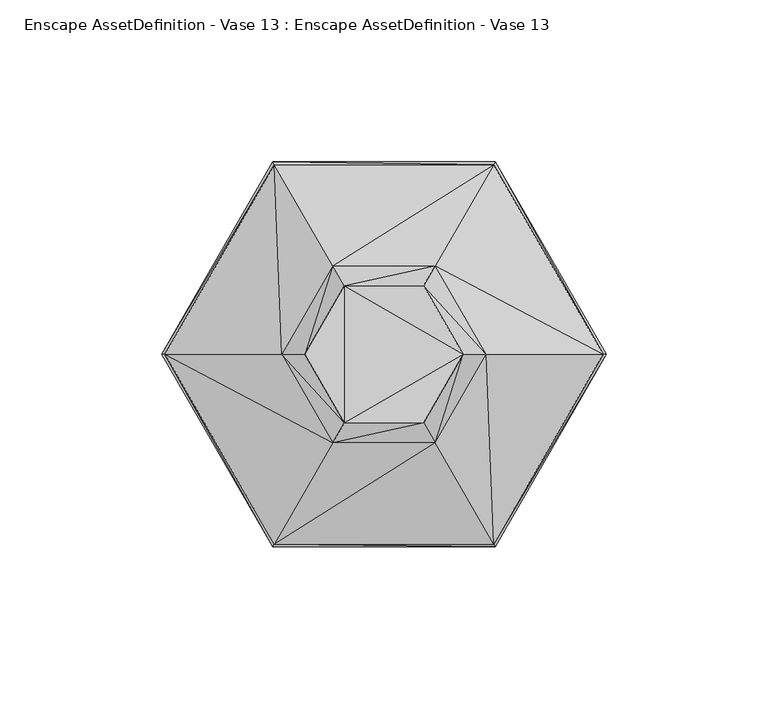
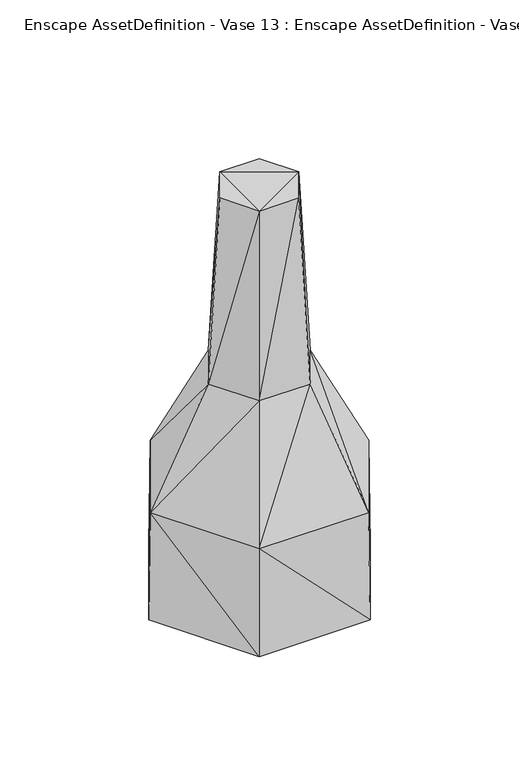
"""IFC4 building model written with IfcOpenShell, lengths in millimetres: geographic element geometry, Enscape AssetDefinition - Vase 13 : Enscape AssetDefinition - Vase 13."""

import ifcopenshell
import ifcopenshell.guid

model = None  # the IFC model being written
_history = None  # IfcOwnerHistory: only IFC2X3 demands one
_inside = {}  # id of a spatial element -> (the spatial element, [elements in it])
_under = {}  # id of a project, library or spatial element -> (it, [spatial elements below it])
_declared = {}  # id of a project -> (the project, [libraries it declares])
_typed = {}  # id of a type object -> (the type object, [elements of that type])
_made_of = {}  # id of a material, layer set ... -> (it, [elements and type objects made of it])


def new_model(schema):
    """Start an empty IFC model of exactly this schema.

    Asked for "IFC4X3", IfcOpenShell would pick the latest addendum, in which some entities
    have other attributes; the version numbers below select the first issue.
    IFC2X3 requires an IfcOwnerHistory on every rooted entity: one is made here for all.
    """
    global model, _history
    if schema == "IFC4X3":
        model = ifcopenshell.file(schema_version=(4, 3, 0, 0))
    else:
        model = ifcopenshell.file(schema=schema)
    _inside.clear()
    _under.clear()
    _declared.clear()
    _typed.clear()
    _made_of.clear()
    _history = None
    if model.schema == "IFC2X3":
        org = make("IfcOrganization", Name="unknown")
        user = make(
            "IfcPersonAndOrganization",
            ThePerson=make("IfcPerson", FamilyName="unknown"),
            TheOrganization=org,
        )
        app = make(
            "IfcApplication",
            ApplicationDeveloper=org,
            Version="unknown",
            ApplicationFullName="unknown",
            ApplicationIdentifier="unknown",
        )
        _history = make(
            "IfcOwnerHistory",
            OwningUser=user,
            OwningApplication=app,
            ChangeAction="ADDED",
            CreationDate=0,
        )
    return model


def make(cls, **values):
    """One entity of the class cls with the attributes given. An attribute that is None is left unset."""
    return model.create_entity(
        cls, **{name: value for name, value in values.items() if value is not None}
    )


def rooted(cls, **values):
    """An entity with a GlobalId (a new one), such as an element, a storey or a relation."""
    return make(cls, GlobalId=ifcopenshell.guid.new(), OwnerHistory=_history, **values)


def si_unit(unit_type, name, prefix=None):
    """IfcSIUnit, for example si_unit("LENGTHUNIT", "METRE", prefix="MILLI")."""
    return make("IfcSIUnit", UnitType=unit_type, Prefix=prefix, Name=name)


def assignment(units):
    """IfcUnitAssignment: the units of a project."""
    return None if units is None else make("IfcUnitAssignment", Units=units)


def point(xyz):
    """IfcCartesianPoint."""
    return None if xyz is None else make("IfcCartesianPoint", Coordinates=xyz)


def direction(xyz):
    """IfcDirection."""
    return None if xyz is None else make("IfcDirection", DirectionRatios=xyz)


def frame(location, z_axis=None, x_axis=None):
    """IfcAxis2Placement3D, a coordinate frame: its origin and axes. An axis left out is left unset."""
    return make(
        "IfcAxis2Placement3D",
        Location=point(location),
        Axis=direction(z_axis),
        RefDirection=direction(x_axis),
    )


def origin():
    """The frame at (0, 0, 0) with its axes left unset."""
    return frame((0.0, 0.0, 0.0))


def place(relative_to, where):
    """IfcLocalPlacement: puts the frame where relative to a parent placement (None: the world)."""
    return make(
        "IfcLocalPlacement", PlacementRelTo=relative_to, RelativePlacement=where
    )


def context(
    kind, dimensions, precision=None, world=None, true_north=None, identifier=None
):
    """IfcGeometricRepresentationContext, for example the 3D "Model" context."""
    return make(
        "IfcGeometricRepresentationContext",
        ContextIdentifier=identifier,
        ContextType=kind,
        CoordinateSpaceDimension=dimensions,
        Precision=precision,
        WorldCoordinateSystem=world,
        TrueNorth=true_north,
    )


def project(units=None, contexts=None):
    """IfcProject with its units and contexts."""
    return rooted(
        "IfcProject",
        Name="project",
        RepresentationContexts=contexts,
        UnitsInContext=assignment(units),
    )


def spatial(cls, under=None, at=None, **own):
    """A site, building, storey or space (cls), placed at a placement, below another one or the project."""
    s = rooted(cls, ObjectPlacement=at, **own)
    if under is not None:
        _under.setdefault(under.id(), (under, []))[1].append(s)
    return s


def faces_of(points, faces, orient=None, outer=None):
    """IfcFace entities. A face is a list of loops; a loop is a list of indices into points, from 0.

    orient and outer hold one flag for each loop. By default every Orientation is true, the
    first loop of a face is its IfcFaceOuterBound and the others are IfcFaceBound.
    """
    made = []
    for i, loops in enumerate(faces):
        bounds = []
        for j, loop in enumerate(loops):
            is_outer = j == 0 if outer is None else outer[i][j]
            bounds.append(
                make(
                    "IfcFaceOuterBound" if is_outer else "IfcFaceBound",
                    Bound=make("IfcPolyLoop", Polygon=[points[k] for k in loop]),
                    Orientation=True if orient is None else orient[i][j],
                )
            )
        made.append(make("IfcFace", Bounds=bounds))
    return made


def faceted_brep(points, faces, orient=None, outer=None, voids=None):
    """IfcFacetedBrep: a solid bounded by flat faces; with voids (closed shells), ...WithVoids."""
    shared = [point(p) for p in points]
    hull = make("IfcClosedShell", CfsFaces=faces_of(shared, faces, orient, outer))
    if voids is None:
        return make("IfcFacetedBrep", Outer=hull)
    return make(
        "IfcFacetedBrepWithVoids",
        Outer=hull,
        Voids=[
            make(cls, CfsFaces=faces_of(shared, fs, o, b)) for cls, fs, o, b in voids
        ],
    )


def shape(context_of_items, identifier, shape_type, items):
    """IfcShapeRepresentation: the items that make up one representation, for example the "Body"."""
    return make(
        "IfcShapeRepresentation",
        ContextOfItems=context_of_items,
        RepresentationIdentifier=identifier,
        RepresentationType=shape_type,
        Items=items,
    )


def source(mapping_origin, context_of_items, identifier, shape_type, items):
    """IfcRepresentationMap: a shape defined once, which mapped items show again and again."""
    return make(
        "IfcRepresentationMap",
        MappingOrigin=mapping_origin,
        MappedRepresentation=shape(context_of_items, identifier, shape_type, items),
    )


def transform(
    local_origin,
    x_axis=None,
    y_axis=None,
    z_axis=None,
    scale=None,
    scale2=None,
    scale3=None,
    uniform=True,
):
    """IfcCartesianTransformationOperator3D, or its non-uniform kind. x_axis, y_axis, z_axis: its Axis1, 2, 3."""
    if uniform:
        return make(
            "IfcCartesianTransformationOperator3D",
            Axis1=direction(x_axis),
            Axis2=direction(y_axis),
            LocalOrigin=point(local_origin),
            Scale=scale,
            Axis3=direction(z_axis),
        )
    return make(
        "IfcCartesianTransformationOperator3DnonUniform",
        Axis1=direction(x_axis),
        Axis2=direction(y_axis),
        LocalOrigin=point(local_origin),
        Scale=scale,
        Axis3=direction(z_axis),
        Scale2=scale2,
        Scale3=scale3,
    )


def mapped(mapping_source, mapping_target):
    """IfcMappedItem: shows the shape of a source again, moved by a transform."""
    return make(
        "IfcMappedItem", MappingSource=mapping_source, MappingTarget=mapping_target
    )


def made_of(thing, what):
    """Note that an element or type object is made of a material, layer set ...; save() writes the relation."""
    if what is not None:
        _made_of.setdefault(what.id(), (what, []))[1].append(thing)
    return thing


def element(
    cls,
    number,
    at=None,
    inside=None,
    cuts=None,
    type_object=None,
    material=None,
    context=None,
    identifier="Body",
    shape_type=None,
    held_by="IfcProductDefinitionShape",
    body=None,
    shapes=None,
    **own,
):
    """One element of the class cls, such as IfcWall. Its Tag is "e" and its number.

    at: its placement. inside: the storey or other place that contains it. cuts: it is an
    opening in that element (IfcRelVoidsElement). A single representation is given by context,
    identifier, shape_type and body (its items); several are given by shapes. held_by: the class
    of the entity that holds the representations. save() writes the other relations.
    """
    e = rooted(cls, Tag="e%d" % number, ObjectPlacement=at, **own)
    if body is not None:
        shapes = [shape(context, identifier, shape_type, body)]
    if shapes is not None:
        e.Representation = make(held_by, Representations=shapes)
    if inside is not None:
        _inside.setdefault(inside.id(), (inside, []))[1].append(e)
    if cuts is not None:
        rooted(
            "IfcRelVoidsElement", RelatingBuildingElement=cuts, RelatedOpeningElement=e
        )
    if type_object is not None:
        _typed.setdefault(type_object.id(), (type_object, []))[1].append(e)
    return made_of(e, material)


def aggregate(whole, parts):
    """IfcRelAggregates: a whole, such as a stair, and the parts it consists of."""
    return rooted("IfcRelAggregates", RelatingObject=whole, RelatedObjects=parts)


def save(model, path):
    """Write the relations noted so far, then the file.

    IfcRelAggregates (storeys below a building ...), IfcRelContainedInSpatialStructure (elements
    in a storey), IfcRelDefinesByType, IfcRelAssociatesMaterial and IfcRelDeclares: one each for
    every whole, place, type object, material and project.
    """
    for whole, parts in _under.values():
        aggregate(whole, parts)
    for where, things in _inside.values():
        rooted(
            "IfcRelContainedInSpatialStructure",
            RelatedElements=things,
            RelatingStructure=where,
        )
    for kind, things in _typed.values():
        rooted("IfcRelDefinesByType", RelatedObjects=things, RelatingType=kind)
    for what, things in _made_of.values():
        rooted("IfcRelAssociatesMaterial", RelatedObjects=things, RelatingMaterial=what)
    for by, libraries in _declared.values():
        rooted("IfcRelDeclares", RelatingContext=by, RelatedDefinitions=libraries)
    model.write(path)


def enscape_assetdefinition_vase_13_enscape_assetdefinition_vase_c3a81dce(model_context):
    return source(origin(), model_context, "Body", "Brep", [
        faceted_brep([(-18.0169996, 60.486, -0.231), (-18.0169996, -58.490999, -0.231), (-52.3629971, 0.9979999, -0.231), (85.0199983, 0.9979999, -0.231), (50.6739989, -58.490999, -0.231), (-51.394999, 0.9979999, 69.6280003), (-17.5329987, -57.6520003, 69.6280003), (-17.5329987, 59.647996, 69.6280003), (50.6739989, 60.486, -0.231), (50.189998, 59.647996, 69.6280003), (0.551, 28.3249989, 141.3300037), (-15.2270002, 0.9979999, 141.3300037), (0.551, -26.3299979, 141.3300037), (-8.1500001, 0.9979999, 260.8349919), (4.0889997, -20.2010013, 260.8349919), (32.1059972, 28.3249989, 141.3300037), (4.0889997, 22.1970007, 260.8349919), (84.0519965, 0.9979999, 69.6280003), (50.189998, -57.6520003, 69.6280003), (47.8830002, 0.9979999, 141.3300037), (28.5679996, 22.1970007, 260.8349919), (40.8069976, 0.9979999, 260.8349919), (32.1059972, -26.3299979, 141.3300037), (28.5679996, -20.2010013, 260.8349919)], [[[0, 1, 2]], [[3, 1, 0]], [[3, 4, 1]], [[5, 1, 6]], [[1, 5, 2]], [[4, 6, 1]], [[7, 2, 5]], [[2, 7, 0]], [[3, 0, 8]], [[9, 0, 7]], [[0, 9, 8]], [[10, 9, 7]], [[7, 11, 10]], [[11, 7, 5]], [[5, 12, 11]], [[12, 5, 6]], [[13, 10, 11]], [[11, 14, 13]], [[14, 11, 12]], [[9, 10, 15]], [[16, 15, 10]], [[10, 13, 16]], [[17, 8, 9]], [[15, 17, 9]], [[8, 17, 3]], [[18, 3, 17]], [[17, 15, 19]], [[19, 18, 17]], [[20, 19, 15]], [[15, 16, 20]], [[16, 21, 20]], [[14, 16, 13]], [[14, 21, 16]], [[19, 20, 21]], [[18, 19, 22]], [[21, 22, 19]], [[6, 4, 18]], [[3, 18, 4]], [[22, 6, 18]], [[6, 22, 12]], [[23, 12, 22]], [[22, 21, 23]], [[14, 23, 21]], [[12, 23, 14]]]),
    ])


if __name__ == "__main__":
    model = new_model("IFC4")
    model_context = context("Model", 3, world=origin())
    ifc_project = project(units=[si_unit("LENGTHUNIT", "METRE", prefix="MILLI")], contexts=[model_context])
    site = spatial("IfcSite", under=ifc_project)
    building = spatial("IfcBuilding", under=site)
    placement = place(None, origin())
    enscape_assetdefinition_vase_13_enscape_assetdefinition_vase_shape = enscape_assetdefinition_vase_13_enscape_assetdefinition_vase_c3a81dce(model_context)
    element("IfcGeographicElement", 1, ObjectType="Enscape AssetDefinition - Vase 13 : Enscape AssetDefinition - Vase 13", at=placement, inside=building, context=model_context, shape_type="MappedRepresentation", body=[
        mapped(enscape_assetdefinition_vase_13_enscape_assetdefinition_vase_shape, transform((0.0, 0.0, 0.0), x_axis=(1.0, 0.0, 0.0), y_axis=(0.0, 1.0, 0.0), z_axis=(0.0, 0.0, 1.0))),
    ])
    save(model, "model.ifc")
